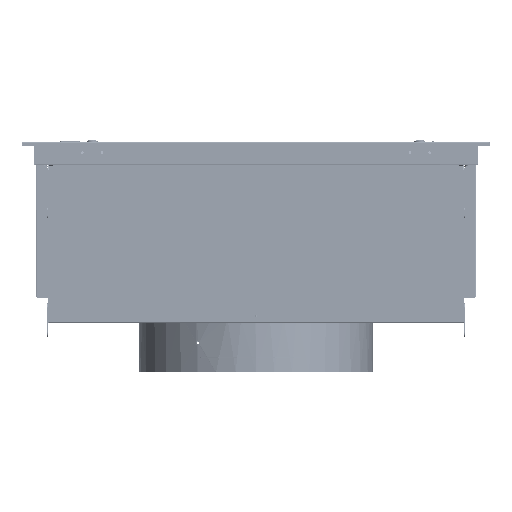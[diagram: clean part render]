
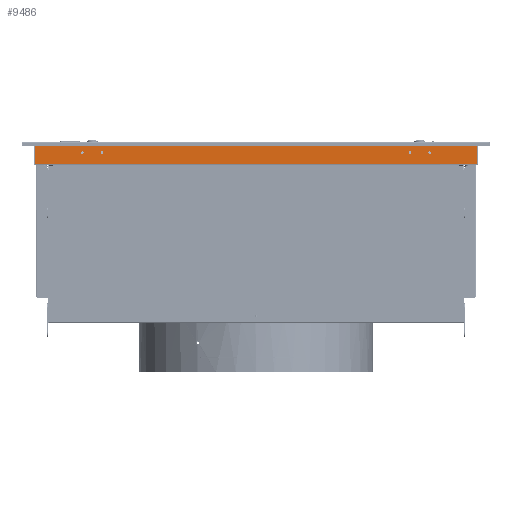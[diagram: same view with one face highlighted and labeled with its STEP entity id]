
A CAD part, left-side view. The second image highlights one B-rep face of the part: STEP entity #9486.
In plain terms, the highlighted planar face has unit normal (-1, 0, 0).
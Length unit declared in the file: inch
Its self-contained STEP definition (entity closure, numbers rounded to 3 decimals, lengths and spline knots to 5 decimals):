
#750 = CARTESIAN_POINT ( 'NONE',  ( -17.268, -8.8141, -0.5545 ) ) ;
#1104 = LINE ( 'NONE', #80738, #39883 ) ;
#1625 = VERTEX_POINT ( 'NONE', #14387 ) ;
#7247 = CARTESIAN_POINT ( 'NONE',  ( -17.268, 8.8141, -0.6245 ) ) ;
#7393 = CIRCLE ( 'NONE', #16834, 0.07 ) ;
#7714 = DIRECTION ( 'NONE',  ( 0., 1., 0. ) ) ;
#9365 = CARTESIAN_POINT ( 'NONE',  ( -17.268, -14.33242, 0. ) ) ;
#9486 = ADVANCED_FACE ( 'NONE', ( #43254, #42073, #31431, #78330, #105687 ), #36698, .F. ) ;
#10221 = VERTEX_POINT ( 'NONE', #16567 ) ;
#11789 = CIRCLE ( 'NONE', #76310, 0.07 ) ;
#13043 = DIRECTION ( 'NONE',  ( -1., 0., 0. ) ) ;
#13551 = VERTEX_POINT ( 'NONE', #91446 ) ;
#13603 = CARTESIAN_POINT ( 'NONE',  ( -17.268, -11.233, -0.066 ) ) ;
#14361 = ORIENTED_EDGE ( 'NONE', *, *, #50250, .T. ) ;
#14387 = CARTESIAN_POINT ( 'NONE',  ( -17.268, -8.8141, -0.6245 ) ) ;
#14948 = DIRECTION ( 'NONE',  ( -1., 0., 0. ) ) ;
#15860 = AXIS2_PLACEMENT_3D ( 'NONE', #89103, #99837, #26695 ) ;
#16567 = CARTESIAN_POINT ( 'NONE',  ( -17.268, 11.233, -0.066 ) ) ;
#16741 = ORIENTED_EDGE ( 'NONE', *, *, #92258, .F. ) ;
#16834 = AXIS2_PLACEMENT_3D ( 'NONE', #56686, #84594, #46604 ) ;
#18599 = DIRECTION ( 'NONE',  ( -1., 0., 0. ) ) ;
#19555 = CARTESIAN_POINT ( 'NONE',  ( -17.268, -8.8141, -0.4845 ) ) ;
#20852 = DIRECTION ( 'NONE',  ( 0., 0., 1. ) ) ;
#22373 = EDGE_LOOP ( 'NONE', ( #25359, #50438 ) ) ;
#24985 = CIRCLE ( 'NONE', #34500, 0.07 ) ;
#25359 = ORIENTED_EDGE ( 'NONE', *, *, #95636, .F. ) ;
#25640 = ORIENTED_EDGE ( 'NONE', *, *, #32245, .F. ) ;
#26276 = ORIENTED_EDGE ( 'NONE', *, *, #39462, .F. ) ;
#26695 = DIRECTION ( 'NONE',  ( 0., 0., 1. ) ) ;
#31130 = CARTESIAN_POINT ( 'NONE',  ( -17.268, -7.8141, -0.6245 ) ) ;
#31431 = FACE_BOUND ( 'NONE', #22373, .T. ) ;
#31942 = ORIENTED_EDGE ( 'NONE', *, *, #48099, .F. ) ;
#32245 = EDGE_CURVE ( 'NONE', #78899, #47759, #57186, .T. ) ;
#33353 = CARTESIAN_POINT ( 'NONE',  ( -17.268, 8.8141, -0.5545 ) ) ;
#34351 = DIRECTION ( 'NONE',  ( 0., 0., -1. ) ) ;
#34500 = AXIS2_PLACEMENT_3D ( 'NONE', #750, #18599, #45897 ) ;
#36698 = PLANE ( 'NONE',  #110685 ) ;
#37331 = DIRECTION ( 'NONE',  ( 0., 0., 1. ) ) ;
#37400 = EDGE_LOOP ( 'NONE', ( #109111, #31942 ) ) ;
#37960 = VERTEX_POINT ( 'NONE', #31130 ) ;
#38600 = CARTESIAN_POINT ( 'NONE',  ( -17.268, 7.8141, -0.5545 ) ) ;
#39462 = EDGE_CURVE ( 'NONE', #44343, #1625, #24985, .T. ) ;
#39686 = EDGE_CURVE ( 'NONE', #83181, #109441, #11789, .T. ) ;
#39883 = VECTOR ( 'NONE', #37331, 39.37008 ) ;
#40408 = CARTESIAN_POINT ( 'NONE',  ( -17.268, -7.8141, -0.5545 ) ) ;
#42073 = FACE_BOUND ( 'NONE', #45188, .T. ) ;
#42203 = AXIS2_PLACEMENT_3D ( 'NONE', #40408, #56493, #20852 ) ;
#42479 = AXIS2_PLACEMENT_3D ( 'NONE', #75420, #64167, #100442 ) ;
#43254 = FACE_BOUND ( 'NONE', #37400, .T. ) ;
#44343 = VERTEX_POINT ( 'NONE', #19555 ) ;
#44847 = VERTEX_POINT ( 'NONE', #84994 ) ;
#45188 = EDGE_LOOP ( 'NONE', ( #26276, #16741 ) ) ;
#45897 = DIRECTION ( 'NONE',  ( 0., 0., 1. ) ) ;
#46604 = DIRECTION ( 'NONE',  ( 0., 0., 1. ) ) ;
#47674 = ORIENTED_EDGE ( 'NONE', *, *, #95623, .T. ) ;
#47759 = VERTEX_POINT ( 'NONE', #74993 ) ;
#48099 = EDGE_CURVE ( 'NONE', #37960, #13551, #112638, .T. ) ;
#49054 = CARTESIAN_POINT ( 'NONE',  ( -17.268, -8.8141, -0.5545 ) ) ;
#50250 = EDGE_CURVE ( 'NONE', #78899, #59228, #1104, .T. ) ;
#50438 = ORIENTED_EDGE ( 'NONE', *, *, #110764, .F. ) ;
#55100 = AXIS2_PLACEMENT_3D ( 'NONE', #49054, #103710, #57372 ) ;
#55702 = CIRCLE ( 'NONE', #15860, 0.07 ) ;
#56065 = ORIENTED_EDGE ( 'NONE', *, *, #96008, .T. ) ;
#56493 = DIRECTION ( 'NONE',  ( -1., 0., 0. ) ) ;
#56686 = CARTESIAN_POINT ( 'NONE',  ( -17.268, 8.8141, -0.5545 ) ) ;
#57186 = LINE ( 'NONE', #94050, #85822 ) ;
#57372 = DIRECTION ( 'NONE',  ( 0., 0., 1. ) ) ;
#58007 = AXIS2_PLACEMENT_3D ( 'NONE', #38600, #13043, #58766 ) ;
#58766 = DIRECTION ( 'NONE',  ( 0., 0., 1. ) ) ;
#59228 = VERTEX_POINT ( 'NONE', #13603 ) ;
#59503 = VECTOR ( 'NONE', #7714, 39.37008 ) ;
#63965 = EDGE_CURVE ( 'NONE', #109441, #83181, #7393, .T. ) ;
#64167 = DIRECTION ( 'NONE',  ( -1., 0., 0. ) ) ;
#68339 = LINE ( 'NONE', #72447, #59503 ) ;
#68387 = CIRCLE ( 'NONE', #55100, 0.07 ) ;
#70741 = DIRECTION ( 'NONE',  ( 0., 0., 1. ) ) ;
#72447 = CARTESIAN_POINT ( 'NONE',  ( -17.268, -14.33242, -0.066 ) ) ;
#72820 = VECTOR ( 'NONE', #95452, 39.37008 ) ;
#74034 = EDGE_LOOP ( 'NONE', ( #14361, #47674, #56065, #25640 ) ) ;
#74993 = CARTESIAN_POINT ( 'NONE',  ( -17.268, 11.233, -1.137 ) ) ;
#75031 = DIRECTION ( 'NONE',  ( 0., 1., 0. ) ) ;
#75420 = CARTESIAN_POINT ( 'NONE',  ( -17.268, -7.8141, -0.5545 ) ) ;
#76310 = AXIS2_PLACEMENT_3D ( 'NONE', #33353, #14948, #70741 ) ;
#77474 = CARTESIAN_POINT ( 'NONE',  ( -17.268, 7.8141, -0.4845 ) ) ;
#78330 = FACE_BOUND ( 'NONE', #114079, .T. ) ;
#78899 = VERTEX_POINT ( 'NONE', #89610 ) ;
#79090 = VERTEX_POINT ( 'NONE', #77474 ) ;
#79916 = LINE ( 'NONE', #116162, #72820 ) ;
#80738 = CARTESIAN_POINT ( 'NONE',  ( -17.268, -11.233, 0. ) ) ;
#83181 = VERTEX_POINT ( 'NONE', #7247 ) ;
#84594 = DIRECTION ( 'NONE',  ( -1., 0., 0. ) ) ;
#84994 = CARTESIAN_POINT ( 'NONE',  ( -17.268, 7.8141, -0.6245 ) ) ;
#85065 = ORIENTED_EDGE ( 'NONE', *, *, #39686, .F. ) ;
#85822 = VECTOR ( 'NONE', #75031, 39.37008 ) ;
#89103 = CARTESIAN_POINT ( 'NONE',  ( -17.268, 7.8141, -0.5545 ) ) ;
#89610 = CARTESIAN_POINT ( 'NONE',  ( -17.268, -11.233, -1.137 ) ) ;
#91446 = CARTESIAN_POINT ( 'NONE',  ( -17.268, -7.8141, -0.4845 ) ) ;
#92258 = EDGE_CURVE ( 'NONE', #1625, #44343, #68387, .T. ) ;
#93649 = ORIENTED_EDGE ( 'NONE', *, *, #63965, .F. ) ;
#94050 = CARTESIAN_POINT ( 'NONE',  ( -17.268, -14.33242, -1.137 ) ) ;
#94563 = CARTESIAN_POINT ( 'NONE',  ( -17.268, 8.8141, -0.4845 ) ) ;
#95452 = DIRECTION ( 'NONE',  ( 0., 0., -1. ) ) ;
#95623 = EDGE_CURVE ( 'NONE', #59228, #10221, #68339, .T. ) ;
#95636 = EDGE_CURVE ( 'NONE', #79090, #44847, #55702, .T. ) ;
#96008 = EDGE_CURVE ( 'NONE', #10221, #47759, #79916, .T. ) ;
#99837 = DIRECTION ( 'NONE',  ( -1., 0., 0. ) ) ;
#100442 = DIRECTION ( 'NONE',  ( 0., 0., 1. ) ) ;
#102993 = CIRCLE ( 'NONE', #42203, 0.07 ) ;
#103710 = DIRECTION ( 'NONE',  ( -1., 0., 0. ) ) ;
#105211 = EDGE_CURVE ( 'NONE', #13551, #37960, #102993, .T. ) ;
#105687 = FACE_OUTER_BOUND ( 'NONE', #74034, .T. ) ;
#109111 = ORIENTED_EDGE ( 'NONE', *, *, #105211, .F. ) ;
#109254 = CIRCLE ( 'NONE', #58007, 0.07 ) ;
#109441 = VERTEX_POINT ( 'NONE', #94563 ) ;
#110685 = AXIS2_PLACEMENT_3D ( 'NONE', #9365, #115737, #34351 ) ;
#110764 = EDGE_CURVE ( 'NONE', #44847, #79090, #109254, .T. ) ;
#112638 = CIRCLE ( 'NONE', #42479, 0.07 ) ;
#114079 = EDGE_LOOP ( 'NONE', ( #93649, #85065 ) ) ;
#115737 = DIRECTION ( 'NONE',  ( 1., 0., 0. ) ) ;
#116162 = CARTESIAN_POINT ( 'NONE',  ( -17.268, 11.233, 0. ) ) ;
